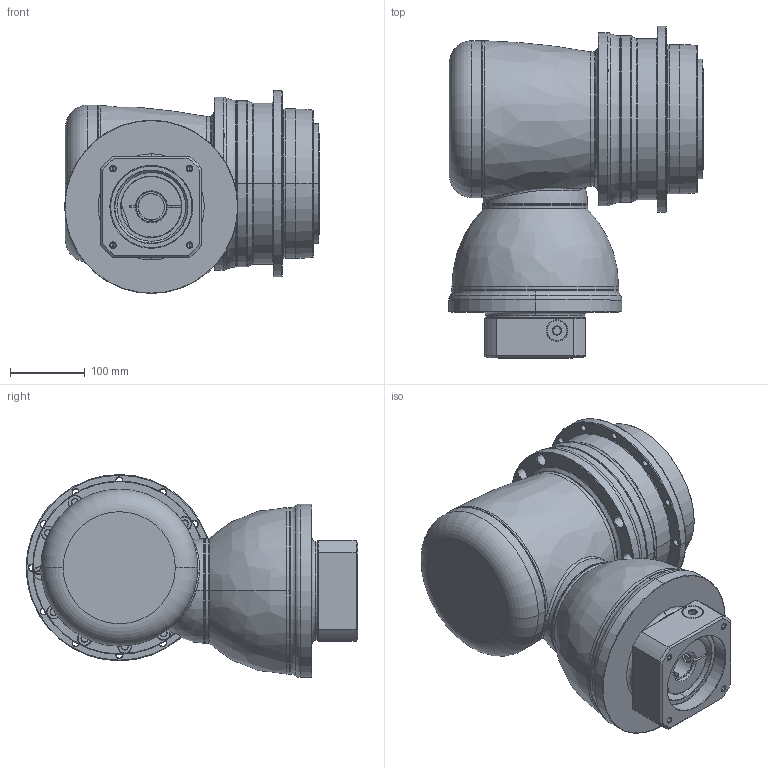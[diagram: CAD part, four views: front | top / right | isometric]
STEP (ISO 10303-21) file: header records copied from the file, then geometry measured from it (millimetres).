
FILE_DESCRIPTION((''),'2;1');
FILE_NAME('AHK200_2ST_35-P0409800101_ASM','2016-10-13T',('d01943'),(''),'PRO/ENGINEER BY PARAMETRIC TECHNOLOGY CORPORATION, 2008410','PRO/ENGINEER BY PARAMETRIC TECHNOLOGY CORPORATION, 2008410','');
FILE_SCHEMA(('CONFIG_CONTROL_DESIGN'));
Length unit declared in the file: millimetre
Products named in the file (12): P1008600002; P1802600011; P0278600003; P0359600002; P1315600001; P1007600001; P1318600101; P0503800012; P0912601201; P0409800101; 21711422019; AHK200_2ST_35-P0409800101_ASM
Assembly tree (11 placements, depth 2):
  AHK200_2ST_35-P0409800101_ASM
    P1008600002
    P1802600011
    P0278600003
    P0359600002
    P1315600001
    P1007600001
    P1318600101
    P0503800012
    P0912601201
    P0409800101
    21711422019
Bounding box: 341 x 444.25 x 271.75 mm (x, y, z)
Volume: 13181899.1 mm3; surface area: 1136118.4 mm2
Topology: 12 solids, 12 shells, 915 faces, 2085 edges, 1210 vertices
Faces by surface type: cylinder 320, cone 294, plane 134, torus 128, bspline 37, sphere 2
Entity records: 32020 total; most frequent: CARTESIAN_POINT 10953, DIRECTION 4850, ORIENTED_EDGE 4046, AXIS2_PLACEMENT_3D 2082, EDGE_CURVE 2023, VERTEX_POINT 1210, CIRCLE 1181, EDGE_LOOP 1055
